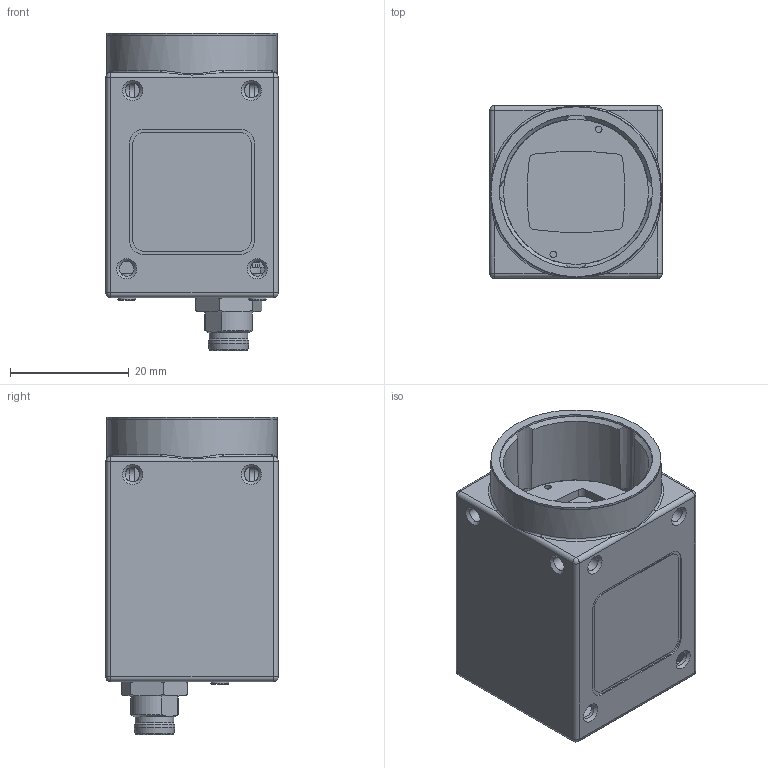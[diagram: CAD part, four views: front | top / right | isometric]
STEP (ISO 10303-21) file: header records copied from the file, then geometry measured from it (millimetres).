
FILE_DESCRIPTION( ( 'Unknown' ), '1' );
FILE_NAME( 'C:/Users/rih/Desktop/11165896_VCXU-123C.stp', '14.10.2014', ( 'Unknown' ), ( 'Unknown' ), 'PSStep 15.0.49', 'Unknown', ' ' );
FILE_SCHEMA( ( 'AUTOMOTIVE_DESIGN { 1 0 10303 214 1 1 1 1 }' ) );
Length unit declared in the file: millimetre
Products named in the file (4): 11104603
Bounding box: 29 x 29 x 53.35 mm (x, y, z)
Volume: 10694.3 mm3; surface area: 16709.3 mm2
Topology: 4 solids, 9 shells, 1823 faces, 4600 edges, 3056 vertices
Faces by surface type: plane 1090, cylinder 591, cone 71, torus 27, sphere 24, bspline 12, extrusion 8
Full cylindrical faces by diameter (mm): 0.217 x1, 0.6 x242, 0.7 x1, 0.9 x1, 1.1 x2, 1.4 x4, 1.567 x2, 1.6 x2, 1.9 x4, 2.459 x10, 3 x4, 6.5 x1, 6.9 x1, 8.4 x1, 9 x1, 9.4 x1, 24.4 x1, 25.7 x1, 26 x1, 28.6 x1, 28.7 x1
Entity records: 70676 total; most frequent: CARTESIAN_POINT 11765, DIRECTION 8568, ORIENTED_EDGE 7858, EDGE_CURVE 3929, AXIS2_PLACEMENT_3D 3144, VERTEX_POINT 2759, EDGE_LOOP 2538, PRESENTATION_STYLE_ASSIGNMENT 2492
